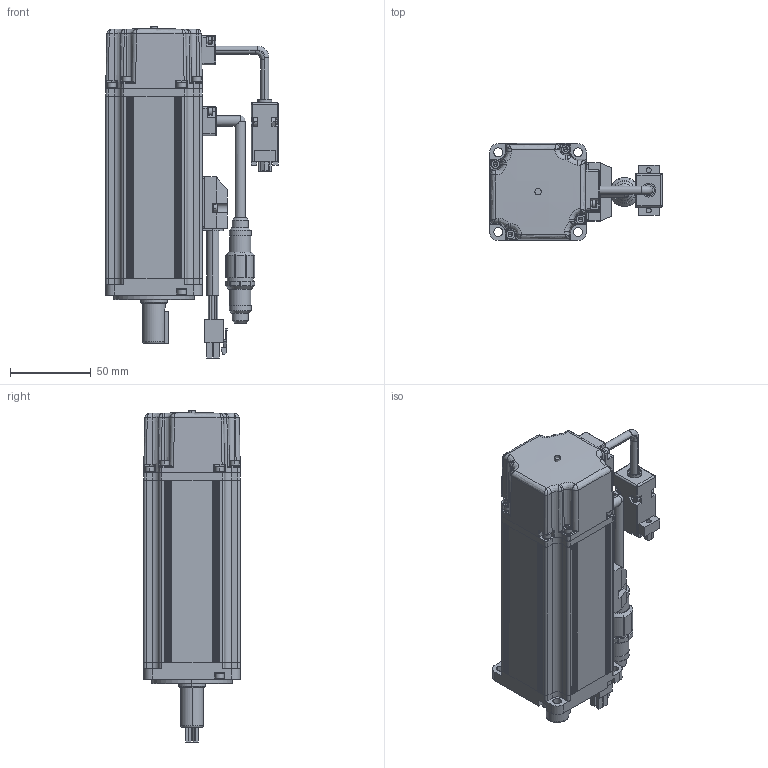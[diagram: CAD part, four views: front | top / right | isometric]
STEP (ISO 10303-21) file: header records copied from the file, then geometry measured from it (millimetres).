
FILE_DESCRIPTION((''),'2;1');
FILE_NAME('06-1A2_ASM','2018-05-02T',('Administrator'),(''),'PRO/ENGINEER BY PARAMETRIC TECHNOLOGY CORPORATION, 2009440','PRO/ENGINEER BY PARAMETRIC TECHNOLOGY CORPORATION, 2009440','');
FILE_SCHEMA(('CONFIG_CONTROL_DESIGN'));
Products named in the file (32): 60-1A2-ZZ; 60-1A2-Z_ASM; ML60-QDG-A2; 60-MFQ; 60-ZYG; GB-T93-2R5; GB-T70-M2R5X8; OQ-52X1; GB-T93-3; GB-T70-M3X16; GB-T9877-17X28X4; 60-QA2_ASM; 60-1A2-JK; GB-T97-3; GB-T70-M3X5; DYX-CT; DYX-YXH; BZX-ZJ; XHXCT; XHX; BZX-ZJ_ASM; 60-1A2-DZ_ASM; 60-HA2-JDS; OQ-50X1; 60-HA2-JDS_ASM; 5X5X20; 60-FHZ-L; GB-T70-M3X12; 60-FHZ-ZJ_ASM; XHX-ZJ; DYX-ZJ; 06-1A2_ASM
Assembly tree (72 placements, depth 4):
  06-1A2_ASM
    60-1A2-Z_ASM
      60-1A2-ZZ
    60-QA2_ASM
      ML60-QDG-A2
      60-MFQ
      60-ZYG
      GB-T93-2R5  x3
      GB-T70-M2R5X8  x3
      OQ-52X1
      GB-T93-3  x4
      GB-T70-M3X16  x4
      GB-T9877-17X28X4
    60-1A2-DZ_ASM
      60-1A2-JK
      GB-T97-3
      GB-T93-3
      GB-T70-M3X5
      DYX-CT
      DYX-YXH
      GB-T93-2R5  x2
      GB-T70-M2R5X8  x2
      BZX-ZJ_ASM
        BZX-ZJ
        XHXCT
        XHX
        GB-T93-2R5  x2
        GB-T70-M2R5X8  x2
    60-HA2-JDS_ASM
      60-HA2-JDS
      OQ-52X1
      OQ-50X1
      GB-T93-3  x4
      GB-T70-M3X16  x4
    5X5X20
    60-FHZ-ZJ_ASM
      60-FHZ-L
      XHXCT
      XHX
      GB-T93-2R5  x2
      GB-T70-M2R5X8  x2
      GB-T93-3  x4
      GB-T70-M3X12  x4
    XHX-ZJ
    DYX-ZJ
Bounding box: 107.09 x 60 x 206 mm (x, y, z)
Volume: 207277.2 mm3; surface area: 148036.3 mm2
Topology: 66 solids, 92 shells, 2960 faces, 6948 edges, 4268 vertices
Faces by surface type: plane 1508, cylinder 841, cone 402, torus 108, bspline 87, sphere 10, extrusion 4
Entity records: 70674 total; most frequent: CARTESIAN_POINT 19347, DIRECTION 10638, ORIENTED_EDGE 10392, EDGE_CURVE 5211, AXIS2_PLACEMENT_3D 3715, VERTEX_POINT 3332, VECTOR 3208, LINE 3204
